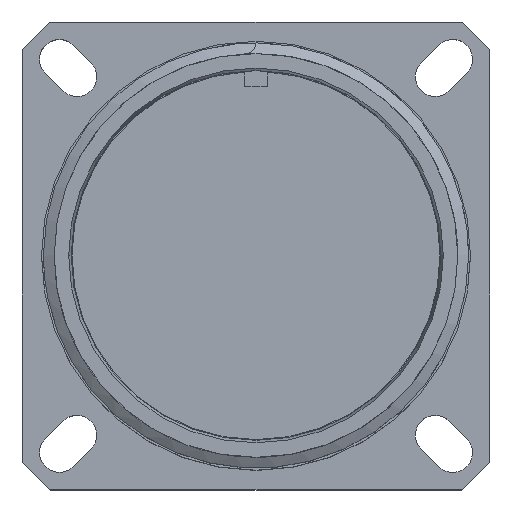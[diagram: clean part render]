
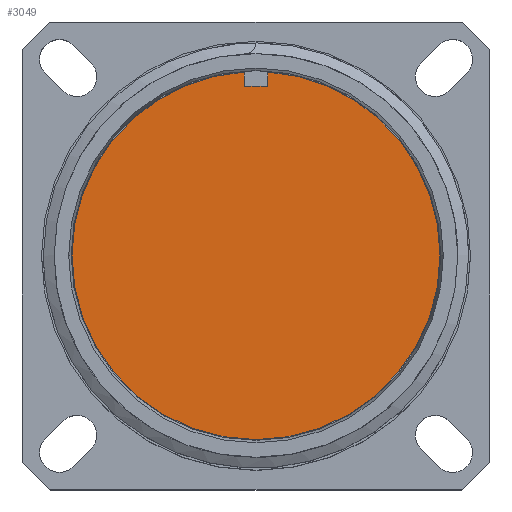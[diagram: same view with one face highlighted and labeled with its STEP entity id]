
A CAD part, top view. The second image highlights one B-rep face of the part: STEP entity #3049.
In plain terms, the highlighted planar face has unit normal (0, 0, 1).
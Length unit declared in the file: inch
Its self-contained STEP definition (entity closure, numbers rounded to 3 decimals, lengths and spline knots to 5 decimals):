
#325 = CIRCLE ( 'NONE', #3122, 0.5925 ) ;
#496 = DIRECTION ( 'NONE',  ( 0., 0., 1. ) ) ;
#522 = AXIS2_PLACEMENT_3D ( 'NONE', #1296, #496, #4586 ) ;
#579 = EDGE_CURVE ( 'NONE', #3801, #3051, #3166, .T. ) ;
#726 = PLANE ( 'NONE',  #2876 ) ;
#913 = EDGE_LOOP ( 'NONE', ( #1785, #1660 ) ) ;
#1296 = CARTESIAN_POINT ( 'NONE',  ( 0., 0., -0.563 ) ) ;
#1379 = DIRECTION ( 'NONE',  ( 0., 0., 1. ) ) ;
#1660 = ORIENTED_EDGE ( 'NONE', *, *, #579, .T. ) ;
#1785 = ORIENTED_EDGE ( 'NONE', *, *, #4592, .T. ) ;
#2590 = FACE_OUTER_BOUND ( 'NONE', #913, .T. ) ;
#2615 = CARTESIAN_POINT ( 'NONE',  ( 0., 0.5925, -0.563 ) ) ;
#2876 = AXIS2_PLACEMENT_3D ( 'NONE', #2615, #3039, #3016 ) ;
#3016 = DIRECTION ( 'NONE',  ( -1., 0., 0. ) ) ;
#3039 = DIRECTION ( 'NONE',  ( 0., 0., -1. ) ) ;
#3049 = ADVANCED_FACE ( 'NONE', ( #2590 ), #726, .F. ) ;
#3051 = VERTEX_POINT ( 'NONE', #3750 ) ;
#3122 = AXIS2_PLACEMENT_3D ( 'NONE', #4844, #1379, #4815 ) ;
#3149 = CARTESIAN_POINT ( 'NONE',  ( -0.5925, 0., -0.563 ) ) ;
#3166 = CIRCLE ( 'NONE', #522, 0.5925 ) ;
#3750 = CARTESIAN_POINT ( 'NONE',  ( 0.5925, 0., -0.563 ) ) ;
#3801 = VERTEX_POINT ( 'NONE', #3149 ) ;
#4586 = DIRECTION ( 'NONE',  ( 1., 0., 0. ) ) ;
#4592 = EDGE_CURVE ( 'NONE', #3051, #3801, #325, .T. ) ;
#4815 = DIRECTION ( 'NONE',  ( 1., 0., 0. ) ) ;
#4844 = CARTESIAN_POINT ( 'NONE',  ( 0., 0., -0.563 ) ) ;
